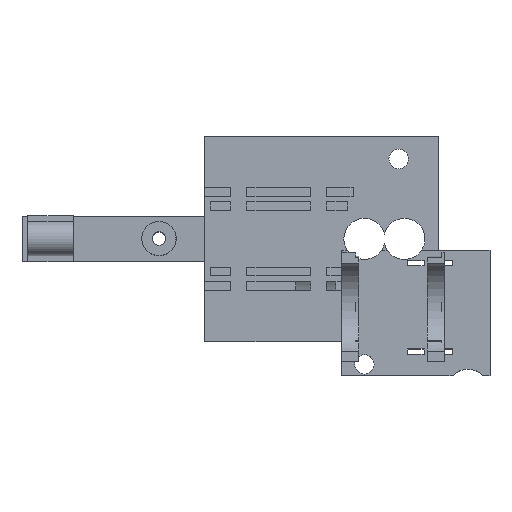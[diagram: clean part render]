
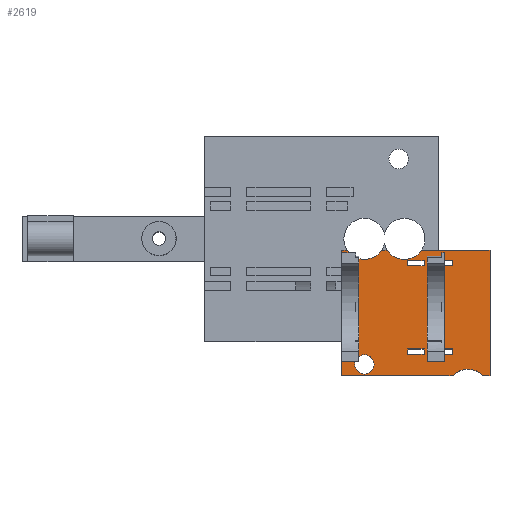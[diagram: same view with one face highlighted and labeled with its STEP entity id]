
A CAD part, top view. The second image highlights one B-rep face of the part: STEP entity #2619.
In plain terms, the highlighted planar face has unit normal (0, 0, 1).
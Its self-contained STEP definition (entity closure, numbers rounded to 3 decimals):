
#869 = VERTEX_POINT('',#870);
#870 = CARTESIAN_POINT('',(-35.007,-2.,4.));
#876 = EDGE_CURVE('',#869,#877,#879,.T.);
#877 = VERTEX_POINT('',#878);
#878 = CARTESIAN_POINT('',(-23.,-2.,4.));
#879 = LINE('',#880,#881);
#880 = CARTESIAN_POINT('',(-49.,-2.,4.));
#881 = VECTOR('',#882,1.);
#882 = DIRECTION('',(1.,0.,0.));
#919 = EDGE_CURVE('',#920,#869,#922,.T.);
#920 = VERTEX_POINT('',#921);
#921 = CARTESIAN_POINT('',(-40.993,-2.,4.));
#922 = CIRCLE('',#923,3.6);
#923 = AXIS2_PLACEMENT_3D('',#924,#925,#926);
#924 = CARTESIAN_POINT('',(-38.,0.,4.));
#925 = DIRECTION('',(0.,0.,1.));
#926 = DIRECTION('',(1.,0.,0.));
#1033 = VERTEX_POINT('',#1034);
#1034 = CARTESIAN_POINT('',(-42.007,-2.,4.));
#1040 = EDGE_CURVE('',#1041,#1033,#1043,.T.);
#1041 = VERTEX_POINT('',#1042);
#1042 = CARTESIAN_POINT('',(-47.993,-2.,4.));
#1043 = CIRCLE('',#1044,3.6);
#1044 = AXIS2_PLACEMENT_3D('',#1045,#1046,#1047);
#1045 = CARTESIAN_POINT('',(-45.,0.,4.));
#1046 = DIRECTION('',(0.,0.,1.));
#1047 = DIRECTION('',(1.,0.,0.));
#1066 = VERTEX_POINT('',#1067);
#1067 = CARTESIAN_POINT('',(-49.,-2.,4.));
#1073 = EDGE_CURVE('',#1066,#1041,#1074,.T.);
#1074 = LINE('',#1075,#1076);
#1075 = CARTESIAN_POINT('',(-49.,-2.,4.));
#1076 = VECTOR('',#1077,1.);
#1077 = DIRECTION('',(1.,0.,0.));
#1087 = EDGE_CURVE('',#1088,#1066,#1090,.T.);
#1088 = VERTEX_POINT('',#1089);
#1089 = CARTESIAN_POINT('',(-49.,-6.,4.));
#1090 = LINE('',#1091,#1092);
#1091 = CARTESIAN_POINT('',(-49.,-24.,4.));
#1092 = VECTOR('',#1093,1.);
#1093 = DIRECTION('',(0.,1.,0.));
#1160 = VERTEX_POINT('',#1161);
#1161 = CARTESIAN_POINT('',(-49.,-24.,4.));
#1167 = EDGE_CURVE('',#1160,#1168,#1170,.T.);
#1168 = VERTEX_POINT('',#1169);
#1169 = CARTESIAN_POINT('',(-49.,-18.,4.));
#1170 = LINE('',#1171,#1172);
#1171 = CARTESIAN_POINT('',(-49.,-24.,4.));
#1172 = VECTOR('',#1173,1.);
#1173 = DIRECTION('',(0.,1.,0.));
#2600 = VERTEX_POINT('',#2601);
#2601 = CARTESIAN_POINT('',(-23.,-24.,4.));
#2609 = EDGE_CURVE('',#2600,#877,#2610,.T.);
#2610 = LINE('',#2611,#2612);
#2611 = CARTESIAN_POINT('',(-23.,-24.,4.));
#2612 = VECTOR('',#2613,1.);
#2613 = DIRECTION('',(0.,1.,0.));
#2619 = ADVANCED_FACE('',(#2620,#2680,#2714,#2725,#2759,#2793,#2827),
  #2861,.T.);
#2620 = FACE_BOUND('',#2621,.T.);
#2621 = EDGE_LOOP('',(#2622,#2623,#2631,#2640,#2646,#2647,#2648,#2649,
    #2655,#2656,#2657,#2658,#2666,#2674));
#2622 = ORIENTED_EDGE('',*,*,#1167,.F.);
#2623 = ORIENTED_EDGE('',*,*,#2624,.T.);
#2624 = EDGE_CURVE('',#1160,#2625,#2627,.T.);
#2625 = VERTEX_POINT('',#2626);
#2626 = CARTESIAN_POINT('',(-29.656,-24.,4.));
#2627 = LINE('',#2628,#2629);
#2628 = CARTESIAN_POINT('',(-49.,-24.,4.));
#2629 = VECTOR('',#2630,1.);
#2630 = DIRECTION('',(1.,0.,0.));
#2631 = ORIENTED_EDGE('',*,*,#2632,.F.);
#2632 = EDGE_CURVE('',#2633,#2625,#2635,.T.);
#2633 = VERTEX_POINT('',#2634);
#2634 = CARTESIAN_POINT('',(-24.084,-24.,4.));
#2635 = CIRCLE('',#2636,4.);
#2636 = AXIS2_PLACEMENT_3D('',#2637,#2638,#2639);
#2637 = CARTESIAN_POINT('',(-26.87,-26.87,4.));
#2638 = DIRECTION('',(0.,0.,1.));
#2639 = DIRECTION('',(1.,0.,0.));
#2640 = ORIENTED_EDGE('',*,*,#2641,.T.);
#2641 = EDGE_CURVE('',#2633,#2600,#2642,.T.);
#2642 = LINE('',#2643,#2644);
#2643 = CARTESIAN_POINT('',(-49.,-24.,4.));
#2644 = VECTOR('',#2645,1.);
#2645 = DIRECTION('',(1.,0.,0.));
#2646 = ORIENTED_EDGE('',*,*,#2609,.T.);
#2647 = ORIENTED_EDGE('',*,*,#876,.F.);
#2648 = ORIENTED_EDGE('',*,*,#919,.F.);
#2649 = ORIENTED_EDGE('',*,*,#2650,.F.);
#2650 = EDGE_CURVE('',#1033,#920,#2651,.T.);
#2651 = LINE('',#2652,#2653);
#2652 = CARTESIAN_POINT('',(-49.,-2.,4.));
#2653 = VECTOR('',#2654,1.);
#2654 = DIRECTION('',(1.,0.,0.));
#2655 = ORIENTED_EDGE('',*,*,#1040,.F.);
#2656 = ORIENTED_EDGE('',*,*,#1073,.F.);
#2657 = ORIENTED_EDGE('',*,*,#1087,.F.);
#2658 = ORIENTED_EDGE('',*,*,#2659,.F.);
#2659 = EDGE_CURVE('',#2660,#1088,#2662,.T.);
#2660 = VERTEX_POINT('',#2661);
#2661 = CARTESIAN_POINT('',(-46.,-6.,4.));
#2662 = LINE('',#2663,#2664);
#2663 = CARTESIAN_POINT('',(-49.,-6.,4.));
#2664 = VECTOR('',#2665,1.);
#2665 = DIRECTION('',(-1.,0.,0.));
#2666 = ORIENTED_EDGE('',*,*,#2667,.F.);
#2667 = EDGE_CURVE('',#2668,#2660,#2670,.T.);
#2668 = VERTEX_POINT('',#2669);
#2669 = CARTESIAN_POINT('',(-46.,-18.,4.));
#2670 = LINE('',#2671,#2672);
#2671 = CARTESIAN_POINT('',(-46.,-21.,4.));
#2672 = VECTOR('',#2673,1.);
#2673 = DIRECTION('',(0.,1.,0.));
#2674 = ORIENTED_EDGE('',*,*,#2675,.T.);
#2675 = EDGE_CURVE('',#2668,#1168,#2676,.T.);
#2676 = LINE('',#2677,#2678);
#2677 = CARTESIAN_POINT('',(-49.,-18.,4.));
#2678 = VECTOR('',#2679,1.);
#2679 = DIRECTION('',(-1.,0.,0.));
#2680 = FACE_BOUND('',#2681,.T.);
#2681 = EDGE_LOOP('',(#2682,#2692,#2700,#2708));
#2682 = ORIENTED_EDGE('',*,*,#2683,.T.);
#2683 = EDGE_CURVE('',#2684,#2686,#2688,.T.);
#2684 = VERTEX_POINT('',#2685);
#2685 = CARTESIAN_POINT('',(-31.,-18.,4.));
#2686 = VERTEX_POINT('',#2687);
#2687 = CARTESIAN_POINT('',(-34.,-18.,4.));
#2688 = LINE('',#2689,#2690);
#2689 = CARTESIAN_POINT('',(-41.5,-18.,4.));
#2690 = VECTOR('',#2691,1.);
#2691 = DIRECTION('',(-1.,0.,0.));
#2692 = ORIENTED_EDGE('',*,*,#2693,.T.);
#2693 = EDGE_CURVE('',#2686,#2694,#2696,.T.);
#2694 = VERTEX_POINT('',#2695);
#2695 = CARTESIAN_POINT('',(-34.,-6.,4.));
#2696 = LINE('',#2697,#2698);
#2697 = CARTESIAN_POINT('',(-34.,-21.,4.));
#2698 = VECTOR('',#2699,1.);
#2699 = DIRECTION('',(0.,1.,0.));
#2700 = ORIENTED_EDGE('',*,*,#2701,.F.);
#2701 = EDGE_CURVE('',#2702,#2694,#2704,.T.);
#2702 = VERTEX_POINT('',#2703);
#2703 = CARTESIAN_POINT('',(-31.,-6.,4.));
#2704 = LINE('',#2705,#2706);
#2705 = CARTESIAN_POINT('',(-41.5,-6.,4.));
#2706 = VECTOR('',#2707,1.);
#2707 = DIRECTION('',(-1.,0.,0.));
#2708 = ORIENTED_EDGE('',*,*,#2709,.F.);
#2709 = EDGE_CURVE('',#2684,#2702,#2710,.T.);
#2710 = LINE('',#2711,#2712);
#2711 = CARTESIAN_POINT('',(-31.,-21.,4.));
#2712 = VECTOR('',#2713,1.);
#2713 = DIRECTION('',(0.,1.,0.));
#2714 = FACE_BOUND('',#2715,.T.);
#2715 = EDGE_LOOP('',(#2716));
#2716 = ORIENTED_EDGE('',*,*,#2717,.F.);
#2717 = EDGE_CURVE('',#2718,#2718,#2720,.T.);
#2718 = VERTEX_POINT('',#2719);
#2719 = CARTESIAN_POINT('',(-43.3,-22.,4.));
#2720 = CIRCLE('',#2721,1.7);
#2721 = AXIS2_PLACEMENT_3D('',#2722,#2723,#2724);
#2722 = CARTESIAN_POINT('',(-45.,-22.,4.));
#2723 = DIRECTION('',(0.,0.,1.));
#2724 = DIRECTION('',(1.,0.,0.));
#2725 = FACE_BOUND('',#2726,.T.);
#2726 = EDGE_LOOP('',(#2727,#2737,#2745,#2753));
#2727 = ORIENTED_EDGE('',*,*,#2728,.T.);
#2728 = EDGE_CURVE('',#2729,#2731,#2733,.T.);
#2729 = VERTEX_POINT('',#2730);
#2730 = CARTESIAN_POINT('',(-34.55,-4.7,4.));
#2731 = VERTEX_POINT('',#2732);
#2732 = CARTESIAN_POINT('',(-37.45,-4.7,4.));
#2733 = LINE('',#2734,#2735);
#2734 = CARTESIAN_POINT('',(-43.225,-4.7,4.));
#2735 = VECTOR('',#2736,1.);
#2736 = DIRECTION('',(-1.,0.,0.));
#2737 = ORIENTED_EDGE('',*,*,#2738,.T.);
#2738 = EDGE_CURVE('',#2731,#2739,#2741,.T.);
#2739 = VERTEX_POINT('',#2740);
#2740 = CARTESIAN_POINT('',(-37.45,-3.8,4.));
#2741 = LINE('',#2742,#2743);
#2742 = CARTESIAN_POINT('',(-37.45,-14.35,4.));
#2743 = VECTOR('',#2744,1.);
#2744 = DIRECTION('',(0.,1.,0.));
#2745 = ORIENTED_EDGE('',*,*,#2746,.F.);
#2746 = EDGE_CURVE('',#2747,#2739,#2749,.T.);
#2747 = VERTEX_POINT('',#2748);
#2748 = CARTESIAN_POINT('',(-34.55,-3.8,4.));
#2749 = LINE('',#2750,#2751);
#2750 = CARTESIAN_POINT('',(-43.225,-3.8,4.));
#2751 = VECTOR('',#2752,1.);
#2752 = DIRECTION('',(-1.,0.,0.));
#2753 = ORIENTED_EDGE('',*,*,#2754,.F.);
#2754 = EDGE_CURVE('',#2729,#2747,#2755,.T.);
#2755 = LINE('',#2756,#2757);
#2756 = CARTESIAN_POINT('',(-34.55,-14.35,4.));
#2757 = VECTOR('',#2758,1.);
#2758 = DIRECTION('',(0.,1.,0.));
#2759 = FACE_BOUND('',#2760,.T.);
#2760 = EDGE_LOOP('',(#2761,#2771,#2779,#2787));
#2761 = ORIENTED_EDGE('',*,*,#2762,.T.);
#2762 = EDGE_CURVE('',#2763,#2765,#2767,.T.);
#2763 = VERTEX_POINT('',#2764);
#2764 = CARTESIAN_POINT('',(-29.55,-4.7,4.));
#2765 = VERTEX_POINT('',#2766);
#2766 = CARTESIAN_POINT('',(-32.45,-4.7,4.));
#2767 = LINE('',#2768,#2769);
#2768 = CARTESIAN_POINT('',(-40.725,-4.7,4.));
#2769 = VECTOR('',#2770,1.);
#2770 = DIRECTION('',(-1.,0.,0.));
#2771 = ORIENTED_EDGE('',*,*,#2772,.T.);
#2772 = EDGE_CURVE('',#2765,#2773,#2775,.T.);
#2773 = VERTEX_POINT('',#2774);
#2774 = CARTESIAN_POINT('',(-32.45,-3.8,4.));
#2775 = LINE('',#2776,#2777);
#2776 = CARTESIAN_POINT('',(-32.45,-14.35,4.));
#2777 = VECTOR('',#2778,1.);
#2778 = DIRECTION('',(0.,1.,0.));
#2779 = ORIENTED_EDGE('',*,*,#2780,.F.);
#2780 = EDGE_CURVE('',#2781,#2773,#2783,.T.);
#2781 = VERTEX_POINT('',#2782);
#2782 = CARTESIAN_POINT('',(-29.55,-3.8,4.));
#2783 = LINE('',#2784,#2785);
#2784 = CARTESIAN_POINT('',(-40.725,-3.8,4.));
#2785 = VECTOR('',#2786,1.);
#2786 = DIRECTION('',(-1.,0.,0.));
#2787 = ORIENTED_EDGE('',*,*,#2788,.F.);
#2788 = EDGE_CURVE('',#2763,#2781,#2789,.T.);
#2789 = LINE('',#2790,#2791);
#2790 = CARTESIAN_POINT('',(-29.55,-14.35,4.));
#2791 = VECTOR('',#2792,1.);
#2792 = DIRECTION('',(0.,1.,0.));
#2793 = FACE_BOUND('',#2794,.T.);
#2794 = EDGE_LOOP('',(#2795,#2805,#2813,#2821));
#2795 = ORIENTED_EDGE('',*,*,#2796,.T.);
#2796 = EDGE_CURVE('',#2797,#2799,#2801,.T.);
#2797 = VERTEX_POINT('',#2798);
#2798 = CARTESIAN_POINT('',(-34.55,-20.2,4.));
#2799 = VERTEX_POINT('',#2800);
#2800 = CARTESIAN_POINT('',(-37.45,-20.2,4.));
#2801 = LINE('',#2802,#2803);
#2802 = CARTESIAN_POINT('',(-43.225,-20.2,4.));
#2803 = VECTOR('',#2804,1.);
#2804 = DIRECTION('',(-1.,0.,0.));
#2805 = ORIENTED_EDGE('',*,*,#2806,.T.);
#2806 = EDGE_CURVE('',#2799,#2807,#2809,.T.);
#2807 = VERTEX_POINT('',#2808);
#2808 = CARTESIAN_POINT('',(-37.45,-19.3,4.));
#2809 = LINE('',#2810,#2811);
#2810 = CARTESIAN_POINT('',(-37.45,-22.1,4.));
#2811 = VECTOR('',#2812,1.);
#2812 = DIRECTION('',(0.,1.,0.));
#2813 = ORIENTED_EDGE('',*,*,#2814,.F.);
#2814 = EDGE_CURVE('',#2815,#2807,#2817,.T.);
#2815 = VERTEX_POINT('',#2816);
#2816 = CARTESIAN_POINT('',(-34.55,-19.3,4.));
#2817 = LINE('',#2818,#2819);
#2818 = CARTESIAN_POINT('',(-43.225,-19.3,4.));
#2819 = VECTOR('',#2820,1.);
#2820 = DIRECTION('',(-1.,0.,0.));
#2821 = ORIENTED_EDGE('',*,*,#2822,.F.);
#2822 = EDGE_CURVE('',#2797,#2815,#2823,.T.);
#2823 = LINE('',#2824,#2825);
#2824 = CARTESIAN_POINT('',(-34.55,-22.1,4.));
#2825 = VECTOR('',#2826,1.);
#2826 = DIRECTION('',(0.,1.,0.));
#2827 = FACE_BOUND('',#2828,.T.);
#2828 = EDGE_LOOP('',(#2829,#2839,#2847,#2855));
#2829 = ORIENTED_EDGE('',*,*,#2830,.T.);
#2830 = EDGE_CURVE('',#2831,#2833,#2835,.T.);
#2831 = VERTEX_POINT('',#2832);
#2832 = CARTESIAN_POINT('',(-29.55,-20.2,4.));
#2833 = VERTEX_POINT('',#2834);
#2834 = CARTESIAN_POINT('',(-32.45,-20.2,4.));
#2835 = LINE('',#2836,#2837);
#2836 = CARTESIAN_POINT('',(-40.725,-20.2,4.));
#2837 = VECTOR('',#2838,1.);
#2838 = DIRECTION('',(-1.,0.,0.));
#2839 = ORIENTED_EDGE('',*,*,#2840,.T.);
#2840 = EDGE_CURVE('',#2833,#2841,#2843,.T.);
#2841 = VERTEX_POINT('',#2842);
#2842 = CARTESIAN_POINT('',(-32.45,-19.3,4.));
#2843 = LINE('',#2844,#2845);
#2844 = CARTESIAN_POINT('',(-32.45,-22.1,4.));
#2845 = VECTOR('',#2846,1.);
#2846 = DIRECTION('',(0.,1.,0.));
#2847 = ORIENTED_EDGE('',*,*,#2848,.F.);
#2848 = EDGE_CURVE('',#2849,#2841,#2851,.T.);
#2849 = VERTEX_POINT('',#2850);
#2850 = CARTESIAN_POINT('',(-29.55,-19.3,4.));
#2851 = LINE('',#2852,#2853);
#2852 = CARTESIAN_POINT('',(-40.725,-19.3,4.));
#2853 = VECTOR('',#2854,1.);
#2854 = DIRECTION('',(-1.,0.,0.));
#2855 = ORIENTED_EDGE('',*,*,#2856,.F.);
#2856 = EDGE_CURVE('',#2831,#2849,#2857,.T.);
#2857 = LINE('',#2858,#2859);
#2858 = CARTESIAN_POINT('',(-29.55,-22.1,4.));
#2859 = VECTOR('',#2860,1.);
#2860 = DIRECTION('',(0.,1.,0.));
#2861 = PLANE('',#2862);
#2862 = AXIS2_PLACEMENT_3D('',#2863,#2864,#2865);
#2863 = CARTESIAN_POINT('',(-49.,-24.,4.));
#2864 = DIRECTION('',(0.,0.,1.));
#2865 = DIRECTION('',(1.,0.,0.));
